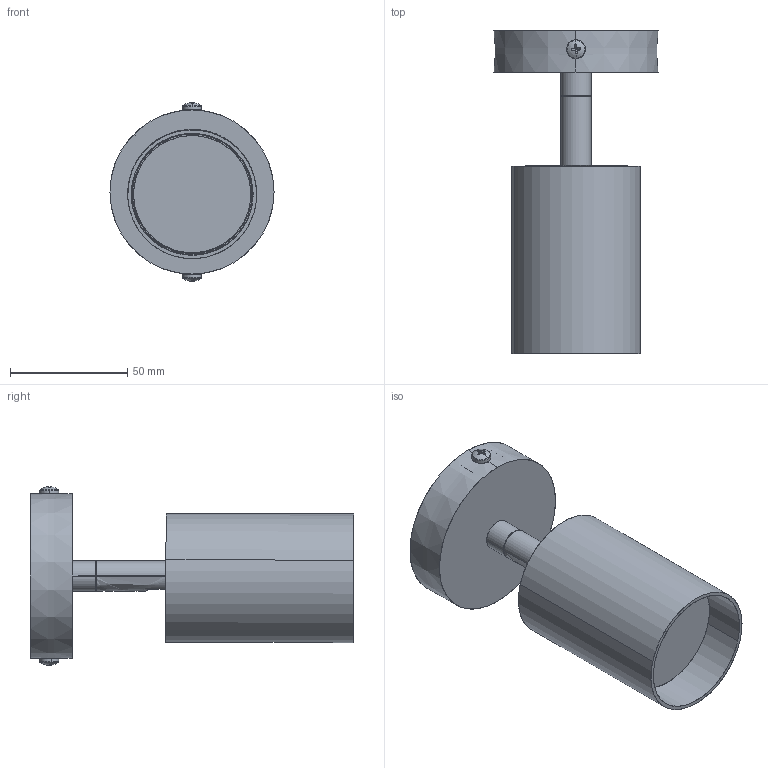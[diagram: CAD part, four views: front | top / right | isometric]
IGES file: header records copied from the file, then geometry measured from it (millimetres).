
Start section: SolidWorks IGES file using analytic representation for surfaces
Global section: file name: E:\3D lampy\Eye spot\Eye spot_I\Eye spot_I.IGS; native system: SolidWorks 2016; preprocessor: SolidWorks 2016; author: Asia; date: 170517.095858; units: millimetre
Bounding box: 70 x 137.87 x 76.13 mm (x, y, z)
Surface area: 68670.2 mm2 (no closed solid volume)
Topology: 0 solids, 0 shells, 432 faces, 6843 edges, 6824 vertices
Faces by surface type: bspline 240, revolution 192
